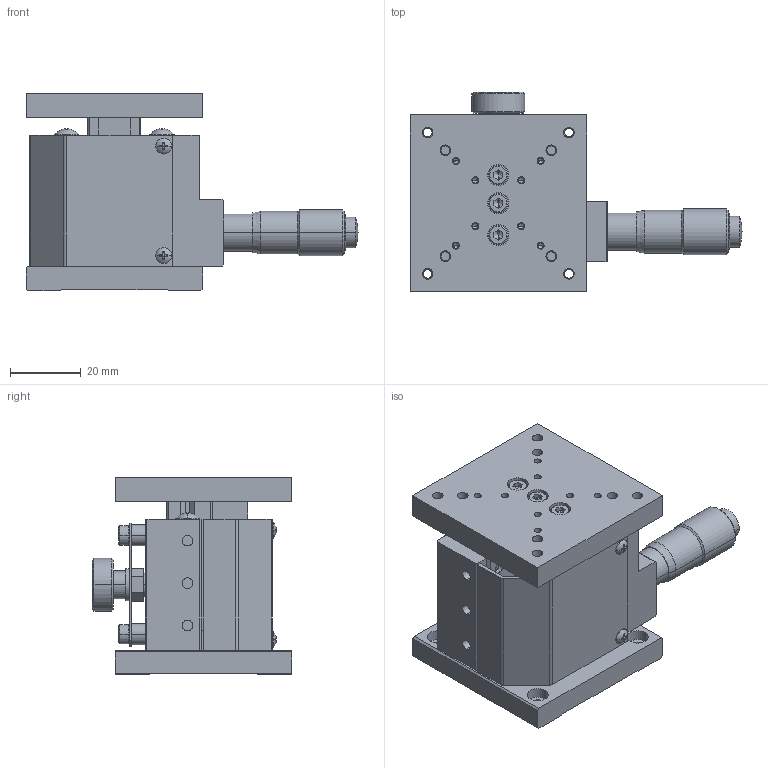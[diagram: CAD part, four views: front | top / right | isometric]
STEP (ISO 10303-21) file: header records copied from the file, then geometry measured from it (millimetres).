
FILE_DESCRIPTION (( 'STEP AP203' ), '1' );
FILE_NAME ('ZM05A-S1K-R.STEP', '2010-01-12T09:14:30', ( ' ' ), ( ' ' ), 'SwSTEP 2.0', 'SolidWorks 2009', '' );
FILE_SCHEMA (( 'CONFIG_CONTROL_DESIGN' ));
Length unit declared in the file: millimetre
Products named in the file (6): DP004630-1021-00-1; DP004630-1021-00-Part-1-1; ZM05A-S1K-R; 004630-1130(3D)-1; MITUTOYO_MHS2-13-1; 004630-1010(3D)
Assembly tree (5 placements, depth 3):
  ZM05A-S1K-R
    MITUTOYO_MHS2-13-1
    004630-1130(3D)-1
    004630-1010(3D)
    DP004630-1021-00-1
      DP004630-1021-00-Part-1-1
Bounding box: 94 x 56.5 x 56 mm (x, y, z)
Volume: 79375.3 mm3; surface area: 44239.5 mm2
Topology: 4 solids, 49 shells, 1541 faces, 3510 edges, 2081 vertices
Faces by surface type: plane 695, cylinder 495, cone 321, sphere 16, torus 14
Entity records: 43612 total; most frequent: DIRECTION 7895, CARTESIAN_POINT 7738, ORIENTED_EDGE 6836, EDGE_CURVE 3418, AXIS2_PLACEMENT_3D 3010, VERTEX_POINT 2081, VECTOR 1875, LINE 1875
